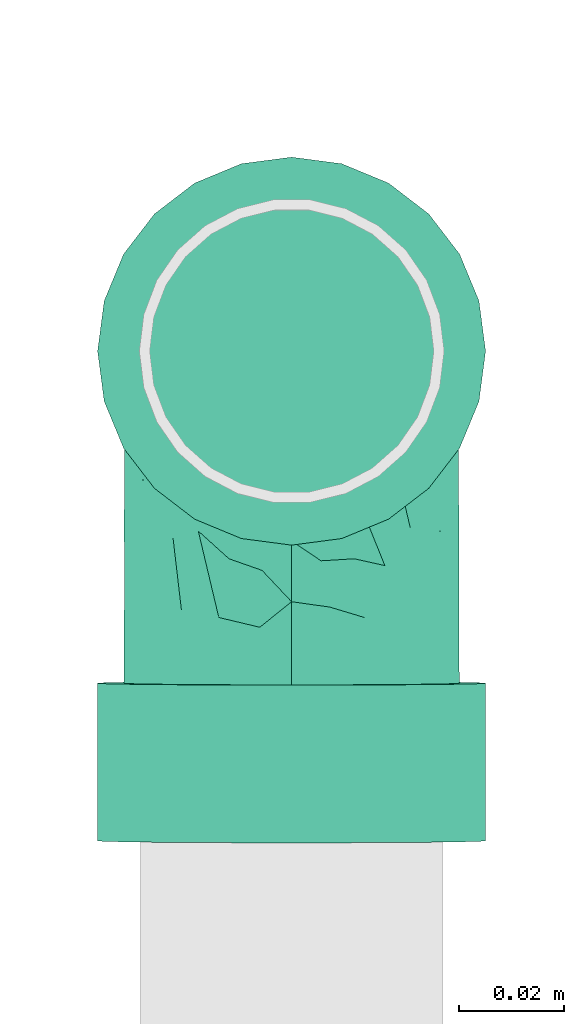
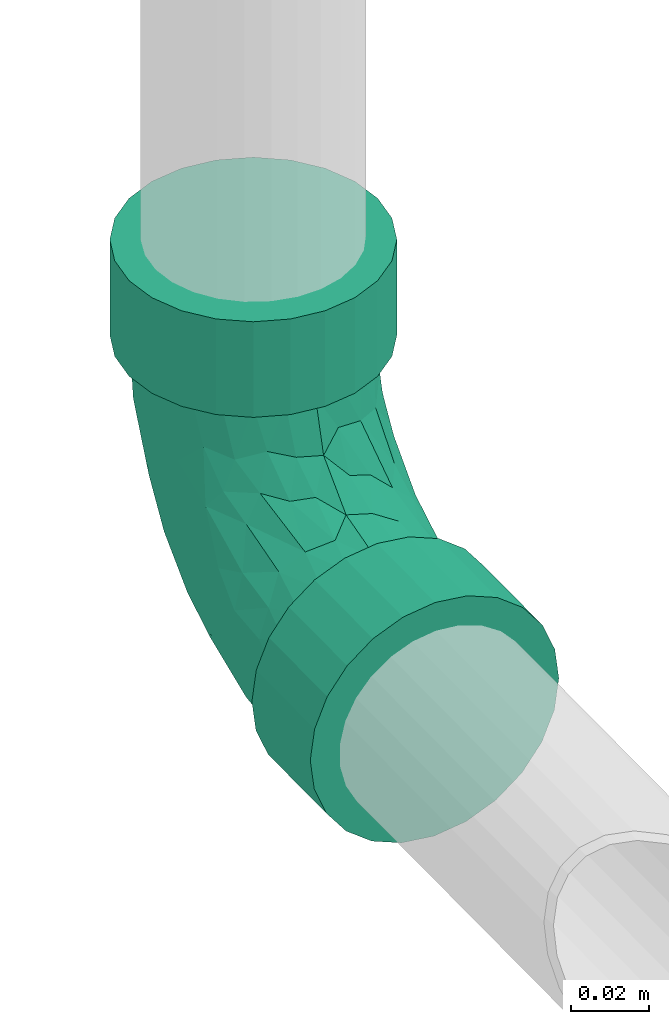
# One storey, part 66 of 78: 1 flow fitting.
"""IFC2X3 building model written with IfcOpenShell, lengths in millimetres."""

import ifcopenshell
import ifcopenshell.guid

model = None  # the IFC model being written
_history = None  # IfcOwnerHistory: only IFC2X3 demands one
_inside = {}  # id of a spatial element -> (the spatial element, [elements in it])
_under = {}  # id of a project, library or spatial element -> (it, [spatial elements below it])
_declared = {}  # id of a project -> (the project, [libraries it declares])
_typed = {}  # id of a type object -> (the type object, [elements of that type])
_made_of = {}  # id of a material, layer set ... -> (it, [elements and type objects made of it])


def new_model(schema):
    """Start an empty IFC model of exactly this schema.

    Asked for "IFC4X3", IfcOpenShell would pick the latest addendum, in which some entities
    have other attributes; the version numbers below select the first issue.
    IFC2X3 requires an IfcOwnerHistory on every rooted entity: one is made here for all.
    """
    global model, _history
    if schema == "IFC4X3":
        model = ifcopenshell.file(schema_version=(4, 3, 0, 0))
    else:
        model = ifcopenshell.file(schema=schema)
    _inside.clear()
    _under.clear()
    _declared.clear()
    _typed.clear()
    _made_of.clear()
    _history = None
    if model.schema == "IFC2X3":
        org = make("IfcOrganization", Name="unknown")
        user = make(
            "IfcPersonAndOrganization",
            ThePerson=make("IfcPerson", FamilyName="unknown"),
            TheOrganization=org,
        )
        app = make(
            "IfcApplication",
            ApplicationDeveloper=org,
            Version="unknown",
            ApplicationFullName="unknown",
            ApplicationIdentifier="unknown",
        )
        _history = make(
            "IfcOwnerHistory",
            OwningUser=user,
            OwningApplication=app,
            ChangeAction="ADDED",
            CreationDate=0,
        )
    return model


def make(cls, **values):
    """One entity of the class cls with the attributes given. An attribute that is None is left unset."""
    return model.create_entity(
        cls, **{name: value for name, value in values.items() if value is not None}
    )


def entity(cls, *values):
    """Any entity or typed value of the class cls, its attributes in the order of the schema. None: left unset."""
    e = model.create_entity(cls)
    for i, value in enumerate(values):
        if value is not None:
            e[i] = value
    return e


def rooted(cls, **values):
    """An entity with a GlobalId (a new one), such as an element, a storey or a relation."""
    return make(cls, GlobalId=ifcopenshell.guid.new(), OwnerHistory=_history, **values)


def si_unit(unit_type, name, prefix=None):
    """IfcSIUnit, for example si_unit("LENGTHUNIT", "METRE", prefix="MILLI")."""
    return make("IfcSIUnit", UnitType=unit_type, Prefix=prefix, Name=name)


def converted_unit(unit_type, name, factor, base, dimensions=None, offset=None):
    """IfcConversionBasedUnit, such as the inch: factor (a typed value) times the base unit."""
    return make(
        "IfcConversionBasedUnit"
        if offset is None
        else "IfcConversionBasedUnitWithOffset",
        ConversionOffset=offset,
        Dimensions=None
        if dimensions is None
        else entity("IfcDimensionalExponents", *dimensions),
        UnitType=unit_type,
        Name=name,
        ConversionFactor=make(
            "IfcMeasureWithUnit", ValueComponent=factor, UnitComponent=base
        ),
    )


def derived_unit(unit_type, elements):
    """IfcDerivedUnit: a product of units, each with its exponent."""
    return make(
        "IfcDerivedUnit",
        Elements=[
            make("IfcDerivedUnitElement", Unit=unit, Exponent=power)
            for unit, power in elements
        ],
        UnitType=unit_type,
    )


def assignment(units):
    """IfcUnitAssignment: the units of a project."""
    return None if units is None else make("IfcUnitAssignment", Units=units)


def point(xyz):
    """IfcCartesianPoint."""
    return None if xyz is None else make("IfcCartesianPoint", Coordinates=xyz)


def direction(xyz):
    """IfcDirection."""
    return None if xyz is None else make("IfcDirection", DirectionRatios=xyz)


def frame(location, z_axis=None, x_axis=None):
    """IfcAxis2Placement3D, a coordinate frame: its origin and axes. An axis left out is left unset."""
    return make(
        "IfcAxis2Placement3D",
        Location=point(location),
        Axis=direction(z_axis),
        RefDirection=direction(x_axis),
    )


def origin_with_axes():
    """The frame at (0, 0, 0) with the z axis (0, 0, 1) and the x axis (1, 0, 0) written out."""
    return frame((0.0, 0.0, 0.0), z_axis=(0.0, 0.0, 1.0), x_axis=(1.0, 0.0, 0.0))


def place(relative_to, where):
    """IfcLocalPlacement: puts the frame where relative to a parent placement (None: the world)."""
    return make(
        "IfcLocalPlacement", PlacementRelTo=relative_to, RelativePlacement=where
    )


def context(
    kind, dimensions, precision=None, world=None, true_north=None, identifier=None
):
    """IfcGeometricRepresentationContext, for example the 3D "Model" context."""
    return make(
        "IfcGeometricRepresentationContext",
        ContextIdentifier=identifier,
        ContextType=kind,
        CoordinateSpaceDimension=dimensions,
        Precision=precision,
        WorldCoordinateSystem=world,
        TrueNorth=true_north,
    )


def subcontext(parent, identifier, kind, view, scale=None):
    """IfcGeometricRepresentationSubContext, for example "Body" below "Model"."""
    return make(
        "IfcGeometricRepresentationSubContext",
        ContextIdentifier=identifier,
        ContextType=kind,
        ParentContext=parent,
        TargetScale=scale,
        TargetView=view,
    )


def project(units=None, contexts=None):
    """IfcProject with its units and contexts."""
    return rooted(
        "IfcProject",
        Name="project",
        RepresentationContexts=contexts,
        UnitsInContext=assignment(units),
    )


def spatial(cls, under=None, at=None, **own):
    """A site, building, storey or space (cls), placed at a placement, below another one or the project."""
    s = rooted(cls, ObjectPlacement=at, **own)
    if under is not None:
        _under.setdefault(under.id(), (under, []))[1].append(s)
    return s


def faces_of(points, faces, orient=None, outer=None):
    """IfcFace entities. A face is a list of loops; a loop is a list of indices into points, from 0.

    orient and outer hold one flag for each loop. By default every Orientation is true, the
    first loop of a face is its IfcFaceOuterBound and the others are IfcFaceBound.
    """
    made = []
    for i, loops in enumerate(faces):
        bounds = []
        for j, loop in enumerate(loops):
            is_outer = j == 0 if outer is None else outer[i][j]
            bounds.append(
                make(
                    "IfcFaceOuterBound" if is_outer else "IfcFaceBound",
                    Bound=make("IfcPolyLoop", Polygon=[points[k] for k in loop]),
                    Orientation=True if orient is None else orient[i][j],
                )
            )
        made.append(make("IfcFace", Bounds=bounds))
    return made


def open_shell(faces, orient=None, outer=None):
    """The faces of one IfcOpenShell. surface_model builds it on its shared points."""
    return ("IfcOpenShell", faces, orient, outer)


def surface_model(cls, points, shells):
    """IfcFaceBasedSurfaceModel or IfcShellBasedSurfaceModel (cls): surfaces that need not close."""
    shared = [point(p) for p in points]
    made = [make(c, CfsFaces=faces_of(shared, fs, o, b)) for c, fs, o, b in shells]
    if cls == "IfcFaceBasedSurfaceModel":
        return make(cls, FbsmFaces=made)
    return make(cls, SbsmBoundary=made)


def shape(context_of_items, identifier, shape_type, items):
    """IfcShapeRepresentation: the items that make up one representation, for example the "Body"."""
    return make(
        "IfcShapeRepresentation",
        ContextOfItems=context_of_items,
        RepresentationIdentifier=identifier,
        RepresentationType=shape_type,
        Items=items,
    )


def source(mapping_origin, context_of_items, identifier, shape_type, items):
    """IfcRepresentationMap: a shape defined once, which mapped items show again and again."""
    return make(
        "IfcRepresentationMap",
        MappingOrigin=mapping_origin,
        MappedRepresentation=shape(context_of_items, identifier, shape_type, items),
    )


def transform(
    local_origin,
    x_axis=None,
    y_axis=None,
    z_axis=None,
    scale=None,
    scale2=None,
    scale3=None,
    uniform=True,
):
    """IfcCartesianTransformationOperator3D, or its non-uniform kind. x_axis, y_axis, z_axis: its Axis1, 2, 3."""
    if uniform:
        return make(
            "IfcCartesianTransformationOperator3D",
            Axis1=direction(x_axis),
            Axis2=direction(y_axis),
            LocalOrigin=point(local_origin),
            Scale=scale,
            Axis3=direction(z_axis),
        )
    return make(
        "IfcCartesianTransformationOperator3DnonUniform",
        Axis1=direction(x_axis),
        Axis2=direction(y_axis),
        LocalOrigin=point(local_origin),
        Scale=scale,
        Axis3=direction(z_axis),
        Scale2=scale2,
        Scale3=scale3,
    )


def mapped(mapping_source, mapping_target):
    """IfcMappedItem: shows the shape of a source again, moved by a transform."""
    return make(
        "IfcMappedItem", MappingSource=mapping_source, MappingTarget=mapping_target
    )


def made_of(thing, what):
    """Note that an element or type object is made of a material, layer set ...; save() writes the relation."""
    if what is not None:
        _made_of.setdefault(what.id(), (what, []))[1].append(thing)
    return thing


def type_object(cls, material=None, **own):
    """A type object (cls), such as IfcWallType, which elements share."""
    return made_of(rooted(cls, **own), material)


def element(
    cls,
    number,
    at=None,
    inside=None,
    cuts=None,
    type_object=None,
    material=None,
    context=None,
    identifier="Body",
    shape_type=None,
    held_by="IfcProductDefinitionShape",
    body=None,
    shapes=None,
    **own,
):
    """One element of the class cls, such as IfcWall. Its Tag is "e" and its number.

    at: its placement. inside: the storey or other place that contains it. cuts: it is an
    opening in that element (IfcRelVoidsElement). A single representation is given by context,
    identifier, shape_type and body (its items); several are given by shapes. held_by: the class
    of the entity that holds the representations. save() writes the other relations.
    """
    e = rooted(cls, Tag="e%d" % number, ObjectPlacement=at, **own)
    if body is not None:
        shapes = [shape(context, identifier, shape_type, body)]
    if shapes is not None:
        e.Representation = make(held_by, Representations=shapes)
    if inside is not None:
        _inside.setdefault(inside.id(), (inside, []))[1].append(e)
    if cuts is not None:
        rooted(
            "IfcRelVoidsElement", RelatingBuildingElement=cuts, RelatedOpeningElement=e
        )
    if type_object is not None:
        _typed.setdefault(type_object.id(), (type_object, []))[1].append(e)
    return made_of(e, material)


def aggregate(whole, parts):
    """IfcRelAggregates: a whole, such as a stair, and the parts it consists of."""
    return rooted("IfcRelAggregates", RelatingObject=whole, RelatedObjects=parts)


def save(model, path):
    """Write the relations noted so far, then the file.

    IfcRelAggregates (storeys below a building ...), IfcRelContainedInSpatialStructure (elements
    in a storey), IfcRelDefinesByType, IfcRelAssociatesMaterial and IfcRelDeclares: one each for
    every whole, place, type object, material and project.
    """
    for whole, parts in _under.values():
        aggregate(whole, parts)
    for where, things in _inside.values():
        rooted(
            "IfcRelContainedInSpatialStructure",
            RelatedElements=things,
            RelatingStructure=where,
        )
    for kind, things in _typed.values():
        rooted("IfcRelDefinesByType", RelatedObjects=things, RelatingType=kind)
    for what, things in _made_of.values():
        rooted("IfcRelAssociatesMaterial", RelatedObjects=things, RelatingMaterial=what)
    for by, libraries in _declared.values():
        rooted("IfcRelDeclares", RelatingContext=by, RelatedDefinitions=libraries)
    model.write(path)


model = new_model("IFC2X3")

# Units and contexts
model_context = context("Model", 3, precision=0.01, world=frame((0.0, 4.29681676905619e-09, 0.0)), true_north=direction((4.01073788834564e-13, 1.0)))
plan_context = context("Plan", 3, precision=0.01, world=frame((0.0, 4.29681676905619e-09, 0.0)), true_north=direction((4.01073788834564e-13, 1.0)))
body_context = subcontext(model_context, "Body", "Model", "MODEL_VIEW")
ifc_project = project(units=[converted_unit("PLANEANGLEUNIT", "DEGREE", entity("IfcPositiveLengthMeasure", 0.0174532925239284), si_unit("PLANEANGLEUNIT", "RADIAN"), dimensions=[0, 0, 0, 0, 0, 0, 0]), si_unit("AREAUNIT", "SQUARE_METRE"), si_unit("LENGTHUNIT", "METRE", prefix="MILLI"), si_unit("MASSUNIT", "GRAM", prefix="KILO"), si_unit("POWERUNIT", "WATT"), si_unit("PRESSUREUNIT", "PASCAL"), si_unit("FORCEUNIT", "NEWTON", prefix="KILO"), si_unit("ELECTRICVOLTAGEUNIT", "VOLT"), si_unit("ELECTRICCURRENTUNIT", "AMPERE"), si_unit("THERMODYNAMICTEMPERATUREUNIT", "DEGREE_CELSIUS"), si_unit("TIMEUNIT", "SECOND"), si_unit("VOLUMEUNIT", "CUBIC_METRE"), derived_unit("LINEARVELOCITYUNIT", [(si_unit("LENGTHUNIT", "METRE"), 1), (si_unit("TIMEUNIT", "SECOND"), -1)]), derived_unit("VOLUMETRICFLOWRATEUNIT", [(si_unit("VOLUMEUNIT", "CUBIC_METRE"), 1), (si_unit("TIMEUNIT", "SECOND"), -1)]), derived_unit("THERMALTRANSMITTANCEUNIT", [(si_unit("POWERUNIT", "WATT"), 1), (si_unit("THERMODYNAMICTEMPERATUREUNIT", "KELVIN"), -1), (si_unit("AREAUNIT", "SQUARE_METRE"), -1)]), derived_unit("SOUNDPRESSUREUNIT", [(si_unit("PRESSUREUNIT", "PASCAL"), 1)])], contexts=[model_context, plan_context])

# Site, building, storey
site_placement = place(None, frame((0.0, -4.29681676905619e-09, 0.0), z_axis=(0.0, 0.0, 1.0), x_axis=(1.0, 0.0, 0.0)))
site = spatial("IfcSite", under=ifc_project, at=site_placement, Name="ENGM", CompositionType="ELEMENT")
building_placement = place(site_placement, frame((0.0, 4.29681676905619e-09, 0.0), z_axis=(0.0, 0.0, 1.0), x_axis=(1.0, 0.0, 0.0)))
building = spatial("IfcBuilding", under=site, at=building_placement, Name="TH", CompositionType="ELEMENT")
storey_placement = place(building_placement, frame((0.0, 0.0, 205200.0), z_axis=(0.0, 0.0, 1.0), x_axis=(1.0, 0.0, 0.0)))
storey = spatial("IfcBuildingStorey", under=building, at=storey_placement, Name="Nivå D + 1,2 m", CompositionType="ELEMENT", Elevation=205200.0)

# Flow fitting
pipe_fitting_type = type_object("IfcPipeFittingType", Name="magi_sewer_bend_001 2", PredefinedType="BEND")
shared_shape = source(origin_with_axes(), body_context, "Body", "SurfaceModel", [
    surface_model("IfcShellBasedSurfaceModel", [(-93.16519, -9.55042, -35.64266), (-93.16519, -18.45, -31.95634), (-93.16519, -26.09224, -26.09224), (-93.16519, 35.64266, -9.55042), (-93.16519, -35.64266, -9.55042), (-93.16519, 36.9, 0.0), (-93.16519, -31.95634, -18.45), (-93.16519, 9.55042, -35.64266), (-93.16519, 0.0, -36.9), (-93.16519, 18.45, -31.95634), (-93.16519, 26.09224, -26.09224), (-93.16519, 31.95634, -18.45), (-93.16519, -35.64266, 9.55042), (-93.16519, -36.9, 0.0), (-93.16519, -31.95634, 18.45), (-93.16519, -26.09224, 26.09224), (-93.16519, -9.55042, 35.64266), (-93.16519, 26.09224, 26.09224), (-93.16519, -18.45, 31.95634), (-93.16519, 0.0, 36.9), (-93.16519, 9.55042, 35.64266), (-93.16519, 35.64266, 9.55042), (-93.16519, 31.95634, 18.45), (-93.16519, 18.45, 31.95634), (-63.16519, -9.55042, 35.64266), (-63.16519, 9.55042, 35.64266), (-63.16519, 0.0, 36.9), (-63.16519, -26.09224, 26.09224), (-63.16519, -18.45, 31.95634), (-63.16519, -31.95634, 18.45), (-63.16519, -35.64266, 9.55042), (-63.16519, -26.09224, -26.09224), (-63.16519, 36.9, 0.0), (-63.16519, 26.09224, 26.09224), (-63.16519, 18.45, 31.95634), (-63.16519, 35.64266, 9.55042), (-63.16519, 31.95634, 18.45), (-63.16519, -35.64266, -9.55042), (-63.16519, -31.95634, -18.45), (-63.16519, -18.45, -31.95634), (-63.16519, -9.55042, -35.64266), (-63.16519, 18.45, -31.95634), (-63.16519, 9.55042, -35.64266), (-63.16519, 35.64266, -9.55042), (-63.16519, 26.09224, -26.09224), (-63.16519, 31.95634, -18.45), (-63.16519, 0.0, -36.9), (-63.16519, -36.9, 0.0), (-34.70928, 93.51694, 9.55042), (-31.02313, 93.48008, 18.45), (-25.15933, 93.42144, 26.09224), (-34.70928, 93.51694, -9.55042), (-8.61834, 93.25604, 35.64266), (0.93161, 93.16053, 36.9), (-17.51747, 93.34502, 31.95634), (10.48155, 93.06503, -35.64266), (-31.02313, 93.48008, -18.45), (-35.96655, 93.52951, 0.0), (-17.51747, 93.34502, -31.95634), (-25.15933, 93.42144, -26.09224), (-8.61834, 93.25604, -35.64266), (27.02254, 92.89963, 26.09224), (10.48155, 93.06503, 35.64266), (19.38068, 92.97604, 31.95634), (36.57249, 92.80412, 9.55042), (32.88634, 92.84098, 18.45), (37.82976, 92.79155, 0.0), (27.02254, 92.89963, -26.09224), (19.38068, 92.97604, -31.95634), (0.93161, 93.16053, -36.9), (32.88634, 92.84098, -18.45), (36.57249, 92.80412, -9.55042), (36.2725, 62.80562, 9.55042), (36.2725, 62.80562, -9.55042), (37.52977, 62.79305, 0.0), (26.72256, 62.90112, 26.09224), (32.58636, 62.84249, 18.45), (19.0807, 62.97754, 31.95634), (10.18157, 63.06653, 35.64266), (10.18157, 63.06653, -35.64266), (32.58636, 62.84249, -18.45), (26.72256, 62.90112, -26.09224), (19.0807, 62.97754, -31.95634), (-8.91832, 63.25753, -35.64266), (0.63162, 63.16203, -36.9), (-25.45932, 63.42294, 26.09224), (0.63162, 63.16203, 36.9), (-8.91832, 63.25753, 35.64266), (-17.81746, 63.34652, 31.95634), (-31.32312, 63.48158, 18.45), (-35.00926, 63.51844, 9.55042), (-17.81746, 63.34652, -31.95634), (-35.00926, 63.51844, -9.55042), (-31.32312, 63.48158, -18.45), (-25.45932, 63.42294, -26.09224), (-36.26653, 63.53101, 0.0), (-63.16519, 0.0, -31.9), (-63.16519, -8.25633, -30.81303), (-63.16519, 8.25633, -30.81303), (-63.16519, 15.95, -27.62621), (-63.16519, -27.62621, -15.95), (-63.16519, 27.62621, -15.95), (-63.16519, 22.55671, -22.55671), (-63.16519, -30.81303, 8.25633), (-63.16519, -22.55671, -22.55671), (-63.16519, -15.95, -27.62621), (-63.16519, -31.9, 0.0), (-63.16519, -30.81303, -8.25633), (-63.16519, 30.81303, -8.25633), (-63.16519, 31.9, 0.0), (-63.16519, -27.62621, 15.95), (-63.16519, 30.81303, 8.25633), (-63.16519, 27.62621, 15.95), (-63.16519, 22.55671, 22.55671), (-63.16519, 8.25633, 30.81303), (-63.16519, 15.95, 27.62621), (-63.16519, -8.25633, 30.81303), (-63.16519, -22.55671, 22.55671), (-63.16519, -15.95, 27.62621), (-63.16519, 0.0, 31.9), (-7.62429, 63.24459, -30.81303), (28.25645, 62.88578, -15.95), (0.63162, 63.16203, -31.9), (-15.31758, 63.32153, -27.62621), (-26.99321, 63.43828, -15.95), (-21.92396, 63.38759, -22.55671), (31.44311, 62.85392, 8.25633), (16.58082, 63.00254, -27.62621), (23.1872, 62.93647, -22.55671), (8.88753, 63.07947, -30.81303), (32.53003, 62.84305, 0.0), (31.44311, 62.85392, -8.25633), (-30.17987, 63.47014, -8.25633), (-31.26678, 63.48102, 0.0), (-30.17987, 63.47014, 8.25633), (-26.99321, 63.43828, 15.95), (-21.92396, 63.38759, 22.55671), (-15.31758, 63.32153, 27.62621), (-7.62429, 63.24459, 30.81303), (28.25645, 62.88578, 15.95), (16.58082, 63.00254, 27.62621), (23.1872, 62.93647, 22.55671), (8.88753, 63.07947, 30.81303), (0.63162, 63.16203, 31.9), (-42.47576, -27.97575, 10.0398), (-46.1635, -24.77655, 17.91632), (-33.77435, -27.27507, 0.0), (-47.47297, -29.43068, 0.0), (-7.8056, -11.26446, 12.211), (-2.01475, -8.9047, 6.63739), (2.21418, -2.23643, 13.01062), (-47.13515, 4.37562, 31.82045), (-42.74372, 13.76914, 30.36966), (-54.47966, 11.90932, 29.87392), (11.45089, 8.05214, 12.51688), (19.67179, 25.01082, 15.87577), (7.65841, 11.04042, 20.41127), (-46.02716, -12.02572, 28.69377), (-24.14397, -7.49262, 26.68906), (-31.31957, -0.33497, 30.93015), (-53.5751, -19.68535, 24.66132), (-28.12946, -24.53183, 6.52094), (-20.49931, -20.56119, 0.0), (-5.40616, 5.46049, 26.13235), (-11.11645, -7.54763, 20.41127), (-30.65767, 50.6638, 13.84558), (-11.36395, 54.59603, 29.87392), (-3.90407, 47.17655, 31.82045), (-8.00119, 20.94177, 31.31983), (-15.41809, 5.82326, 29.82881), (-2.83023, 16.97298, 29.31706), (-47.81307, 27.01532, 21.08257), (-49.51983, 20.0167, 26.37763), (-48.20739, -4.22759, 31.35852), (-10.76783, 31.08271, 31.83553), (-23.24307, 23.47666, 31.10958), (-18.70185, 13.79196, 31.74742), (-48.33894, 34.61205, 7.2623), (-50.35471, 31.16275, 13.84558), (20.22009, 53.37558, 24.66132), (-39.26349, 27.3301, 24.69309), (-40.45449, 34.22064, 17.74686), (-26.15312, 49.33318, 20.94456), (-33.24627, 35.39047, 22.57165), (-34.12224, 24.35306, 28.25125), (-32.26714, 10.75702, 31.80853), (12.48537, 45.90461, 28.69377), (18.60555, 40.05623, 23.70365), (25.23692, 45.91344, 17.91632), (28.39909, 42.1939, 10.0398), (-7.22427, -13.8473, 0.0), (-15.12291, -17.71654, 8.22903), (4.70943, 48.1627, 31.35852), (20.76514, 20.29268, 0.0), (24.81188, 27.88275, 6.52094), (17.86688, 14.94499, 8.22903), (29.90391, 47.1763, 0.0), (-39.09871, 39.49165, 11.90967), (-25.20628, -19.42071, 15.87577), (-40.24027, -18.20408, 23.70365), (-39.46843, 41.70847, 5.60964), (-47.30736, 36.12078, 0.0), (14.99786, 24.99724, 21.61067), (7.73367, 24.06784, 26.68906), (-35.64592, 47.66619, 0.0), (-32.70746, 52.51933, 6.05348), (-13.34104, 42.87927, 30.36966), (-25.01084, -13.93263, 22.31928), (-22.70502, 40.88344, 26.80111), (-20.70555, 33.51385, 29.69828), (-18.96128, 53.08198, 26.11822), (0.64813, 31.31465, 30.93015), (-32.76253, 18.81218, 30.45182), (-1.97541, 1.99526, 21.92484), (9.03587, 2.13014, 6.86079), (27.61143, 33.49992, 0.0), (13.91885, 7.08544, 0.0), (3.34729, -3.38093, 0.0), (-49.0692, 26.64512, -20.94456), (-25.14596, -14.74715, -21.61067), (-24.14397, -7.49262, -26.68906), (-11.11645, -7.54763, -20.41127), (-47.13515, 4.37562, -31.82045), (12.48537, 45.90461, -28.69377), (7.73367, 24.06784, -26.68906), (0.64813, 31.31465, -30.93015), (-54.47966, 11.90932, -29.87392), (-26.53586, 48.08082, -21.08257), (-52.18965, 33.231, -6.05348), (7.65841, 11.04042, -20.41127), (14.18203, 24.87028, -22.31928), (-50.35471, 31.16275, -13.84558), (24.81188, 27.88275, -6.52094), (19.67179, 25.01082, -15.87577), (28.39909, 42.1939, -10.0398), (-42.74372, 13.76914, -30.36966), (-40.65435, 23.1127, -26.80111), (-33.30513, 21.03964, -29.69828), (-5.40616, 5.46049, -26.13235), (-20.86072, 8.2102, -31.31983), (-5.6688, 15.47554, -29.82881), (-16.94383, 2.99981, -29.31706), (-52.88972, 19.49112, -26.11822), (-42.47576, -27.97575, -10.0398), (-35.05626, 33.59849, -22.57165), (-46.16349, -24.77655, -17.91632), (-28.12946, -24.53183, -6.52094), (-25.20628, -19.42071, -15.87577), (-15.12291, -17.71655, -8.22903), (-46.02716, -12.02572, -28.69377), (-48.20739, -4.22759, -31.35852), (-13.34104, 42.87926, -30.36966), (-24.01064, 34.36405, -28.25125), (-19.52052, 49.71751, -26.37763), (-34.12695, 48.68263, -7.2623), (-41.31172, 39.88352, -5.60964), (-30.65767, 50.6638, -13.84558), (-33.8144, 40.79465, -17.74686), (-39.09871, 39.49165, -11.90967), (-3.90407, 47.17655, -31.82045), (-26.93611, 39.53481, -24.69309), (-11.36395, 54.59603, -29.87392), (-2.01475, -8.9047, -6.63739), (25.23692, 45.91344, -17.91632), (4.70943, 48.1627, -31.35852), (-53.5751, -19.68535, -24.66132), (-30.97349, 11.0781, -31.83553), (-23.24307, 23.47666, -31.10958), (-13.60426, 18.83882, -31.74742), (20.22009, 53.37558, -24.66132), (-40.24027, -18.20408, -23.70365), (-10.43383, 32.37309, -31.80853), (17.86688, 14.94499, -8.22903), (18.60555, 40.05623, -23.70365), (-31.31957, -0.33497, -30.93015), (-7.8056, -11.26446, -12.211), (-18.48363, 32.949, -30.45182), (-0.06967, 0.07037, -18.65029), (2.21418, -2.23643, -13.01062), (11.45089, 8.05214, -12.51688), (9.03587, 2.13014, -6.86079)], [open_shell([[[0, 1, 2]], [[3, 0, 2]], [[2, 4, 5]], [[4, 2, 6]], [[5, 3, 2]], [[0, 7, 8]], [[0, 9, 7]], [[10, 3, 11]], [[3, 10, 9]], [[0, 3, 9]], [[12, 4, 13]], [[12, 14, 15]], [[5, 12, 15]], [[15, 16, 17]], [[16, 15, 18]], [[19, 20, 16]], [[21, 17, 22]], [[17, 21, 5]], [[17, 20, 23]], [[17, 5, 15]], [[16, 20, 17]], [[12, 5, 4]], [[24, 25, 26]], [[27, 24, 28]], [[27, 29, 30]], [[25, 24, 27]], [[31, 32, 27]], [[25, 33, 34]], [[33, 25, 32]], [[33, 35, 36]], [[35, 33, 32]], [[25, 27, 32]], [[27, 30, 31]], [[30, 37, 31]], [[31, 37, 38]], [[31, 39, 40]], [[31, 41, 32]], [[42, 31, 40]], [[43, 44, 45]], [[44, 43, 41]], [[31, 42, 41]], [[43, 32, 41]], [[46, 42, 40]], [[47, 37, 30]], [[43, 3, 32]], [[45, 11, 43]], [[9, 44, 41]], [[45, 44, 10]], [[7, 41, 42]], [[43, 11, 3]], [[3, 5, 32]], [[7, 9, 41]], [[10, 44, 9]], [[10, 11, 45]], [[8, 7, 42]], [[42, 46, 8]], [[40, 0, 46]], [[39, 1, 40]], [[37, 47, 4]], [[31, 2, 39]], [[39, 2, 1]], [[1, 0, 40]], [[6, 38, 4]], [[6, 2, 31]], [[4, 38, 37]], [[47, 13, 4]], [[6, 31, 38]], [[46, 0, 8]], [[30, 12, 47]], [[29, 14, 30]], [[18, 27, 28]], [[29, 27, 15]], [[16, 28, 24]], [[30, 14, 12]], [[12, 13, 47]], [[16, 18, 28]], [[15, 27, 18]], [[15, 14, 29]], [[19, 16, 24]], [[24, 26, 19]], [[23, 34, 33]], [[22, 36, 35]], [[33, 36, 17]], [[21, 35, 32]], [[20, 25, 23]], [[25, 20, 26]], [[25, 34, 23]], [[33, 17, 23]], [[36, 22, 17]], [[21, 22, 35]], [[32, 5, 21]], [[26, 20, 19]], [[48, 49, 50]], [[51, 48, 50]], [[52, 53, 50]], [[52, 50, 54]], [[55, 51, 50]], [[51, 55, 56]], [[51, 57, 48]], [[56, 58, 59]], [[56, 55, 58]], [[55, 60, 58]], [[50, 53, 61]], [[62, 63, 61]], [[61, 55, 50]], [[61, 64, 55]], [[64, 61, 65]], [[66, 55, 64]], [[55, 67, 68]], [[69, 60, 55]], [[55, 70, 67]], [[70, 55, 71]], [[66, 71, 55]], [[61, 53, 62]], [[72, 73, 74]], [[75, 72, 76]], [[75, 77, 78]], [[73, 72, 75]], [[79, 75, 78]], [[80, 79, 81]], [[80, 73, 75]], [[81, 79, 82]], [[75, 79, 80]], [[79, 83, 84]], [[79, 78, 83]], [[85, 86, 87]], [[85, 87, 88]], [[85, 89, 90]], [[86, 85, 91]], [[92, 85, 90]], [[91, 93, 94]], [[91, 83, 86]], [[93, 91, 85]], [[85, 92, 93]], [[90, 95, 92]], [[86, 83, 78]], [[83, 60, 84]], [[91, 58, 83]], [[56, 94, 93]], [[91, 94, 59]], [[51, 93, 92]], [[83, 58, 60]], [[60, 69, 84]], [[51, 56, 93]], [[59, 94, 56]], [[59, 58, 91]], [[57, 51, 92]], [[92, 95, 57]], [[90, 48, 95]], [[89, 49, 90]], [[87, 86, 52]], [[85, 50, 89]], [[89, 50, 49]], [[49, 48, 90]], [[54, 88, 52]], [[54, 50, 85]], [[52, 88, 87]], [[86, 53, 52]], [[54, 85, 88]], [[95, 48, 57]], [[78, 62, 86]], [[77, 63, 78]], [[65, 75, 76]], [[77, 75, 61]], [[64, 76, 72]], [[78, 63, 62]], [[62, 53, 86]], [[64, 65, 76]], [[61, 75, 65]], [[61, 63, 77]], [[66, 64, 72]], [[72, 74, 66]], [[70, 80, 81]], [[68, 82, 79]], [[81, 82, 67]], [[55, 79, 84]], [[71, 73, 70]], [[73, 71, 74]], [[73, 80, 70]], [[81, 67, 70]], [[82, 68, 67]], [[55, 68, 79]], [[84, 69, 55]], [[74, 71, 66]], [[96, 97, 98]], [[98, 97, 99]], [[100, 101, 99]], [[102, 99, 101]], [[103, 101, 100]], [[104, 100, 105]], [[97, 105, 100]], [[106, 103, 107]], [[99, 97, 100]], [[103, 100, 107]], [[108, 101, 103]], [[109, 110, 111]], [[112, 111, 113]], [[114, 115, 113]], [[111, 114, 113]], [[114, 111, 116]], [[117, 118, 110]], [[109, 103, 110]], [[118, 116, 110]], [[116, 111, 110]], [[114, 116, 119]], [[108, 103, 109]], [[120, 121, 122]], [[123, 121, 120]], [[123, 124, 121]], [[124, 123, 125]], [[121, 124, 126]], [[127, 121, 128]], [[121, 127, 129]], [[121, 130, 131]], [[121, 129, 122]], [[121, 126, 130]], [[126, 124, 132]], [[133, 134, 135]], [[133, 135, 136]], [[136, 137, 138]], [[133, 136, 139]], [[139, 136, 138]], [[139, 140, 141]], [[139, 126, 133]], [[139, 142, 140]], [[142, 139, 143]], [[138, 143, 139]], [[133, 126, 132]], [[144, 145, 110]], [[146, 144, 147]], [[148, 149, 150]], [[103, 144, 110]], [[103, 147, 144]], [[151, 152, 153]], [[110, 145, 117]], [[154, 155, 156]], [[157, 158, 159]], [[160, 118, 117]], [[157, 118, 160]], [[161, 146, 162]], [[163, 158, 164]], [[165, 135, 134]], [[138, 166, 167]], [[114, 153, 115]], [[168, 169, 170]], [[171, 113, 172]], [[116, 173, 119]], [[174, 175, 176]], [[177, 111, 178]], [[178, 111, 112]], [[179, 141, 140]], [[109, 111, 177]], [[180, 181, 171]], [[182, 165, 183]], [[184, 180, 172]], [[152, 151, 185]], [[186, 187, 179]], [[113, 171, 112]], [[188, 155, 189]], [[182, 135, 165]], [[190, 191, 162]], [[143, 192, 142]], [[162, 191, 161]], [[143, 138, 167]], [[113, 115, 172]], [[189, 126, 139]], [[139, 141, 188]], [[188, 189, 139]], [[193, 194, 195]], [[189, 196, 126]], [[178, 181, 197]], [[145, 198, 199]], [[114, 119, 151]], [[200, 201, 177]], [[202, 203, 156]], [[204, 205, 133]], [[206, 174, 167]], [[165, 134, 205]], [[186, 140, 142]], [[182, 136, 135]], [[164, 158, 207]], [[208, 209, 206]], [[118, 157, 116]], [[210, 137, 136]], [[166, 138, 137]], [[152, 184, 172]], [[187, 186, 203]], [[195, 194, 155]], [[208, 182, 183]], [[182, 208, 210]], [[206, 209, 174]], [[192, 167, 211]], [[173, 151, 119]], [[159, 176, 185]], [[158, 157, 199]], [[173, 157, 159]], [[207, 198, 164]], [[158, 163, 169]], [[192, 186, 142]], [[211, 170, 203]], [[211, 203, 186]], [[203, 163, 156]], [[155, 202, 156]], [[144, 161, 198]], [[198, 145, 144]], [[160, 145, 199]], [[179, 188, 141]], [[155, 188, 187]], [[153, 172, 115]], [[152, 212, 184]], [[208, 183, 184]], [[206, 166, 210]], [[171, 178, 112]], [[177, 178, 197]], [[200, 205, 204]], [[197, 181, 165]], [[184, 175, 209]], [[180, 183, 181]], [[175, 212, 185]], [[211, 167, 174]], [[169, 176, 159]], [[174, 176, 168]], [[148, 198, 191]], [[213, 150, 156]], [[213, 156, 163]], [[154, 150, 214]], [[167, 192, 143]], [[186, 192, 211]], [[157, 173, 116]], [[151, 173, 159]], [[103, 106, 147]], [[196, 189, 215]], [[196, 130, 126]], [[149, 191, 190]], [[191, 149, 148]], [[193, 195, 216]], [[189, 194, 215]], [[214, 150, 149]], [[159, 185, 151]], [[175, 185, 176]], [[200, 177, 197]], [[177, 201, 109]], [[205, 197, 165]], [[201, 200, 204]], [[205, 200, 197]], [[133, 205, 134]], [[214, 217, 216]], [[214, 195, 154]], [[214, 149, 217]], [[216, 195, 214]], [[149, 190, 217]], [[155, 154, 195]], [[156, 150, 154]], [[171, 181, 178]], [[165, 181, 183]], [[150, 164, 148]], [[198, 148, 164]], [[182, 210, 136]], [[206, 210, 208]], [[158, 169, 159]], [[170, 169, 163]], [[203, 170, 163]], [[168, 170, 211]], [[174, 168, 211]], [[169, 168, 176]], [[198, 161, 191]], [[146, 161, 144]], [[215, 194, 193]], [[155, 194, 189]], [[210, 166, 137]], [[167, 166, 206]], [[151, 153, 114]], [[172, 153, 152]], [[145, 160, 117]], [[157, 160, 199]], [[186, 179, 140]], [[188, 179, 187]], [[184, 209, 208]], [[174, 209, 175]], [[185, 212, 152]], [[175, 184, 212]], [[172, 180, 171]], [[184, 183, 180]], [[158, 199, 207]], [[198, 207, 199]], [[155, 187, 202]], [[203, 202, 187]], [[163, 164, 213]], [[150, 213, 164]], [[101, 218, 102]], [[219, 220, 221]], [[96, 98, 222]], [[223, 224, 225]], [[98, 99, 226]], [[125, 227, 124]], [[201, 228, 109]], [[229, 224, 230]], [[231, 108, 228]], [[232, 233, 234]], [[235, 236, 237]], [[224, 229, 238]], [[239, 240, 241]], [[242, 99, 102]], [[100, 243, 107]], [[127, 223, 129]], [[243, 147, 107]], [[236, 218, 244]], [[243, 100, 245]], [[218, 101, 231]], [[246, 247, 248]], [[218, 231, 244]], [[249, 105, 97]], [[131, 130, 196]], [[250, 97, 96]], [[247, 243, 245]], [[251, 252, 253]], [[218, 236, 242]], [[254, 255, 204]], [[256, 257, 258]], [[133, 132, 254]], [[120, 122, 259]], [[227, 260, 257]], [[259, 251, 261]], [[190, 248, 262]], [[253, 227, 125]], [[261, 123, 120]], [[234, 263, 121]], [[122, 129, 264]], [[101, 108, 231]], [[265, 104, 105]], [[253, 252, 260]], [[266, 267, 268]], [[269, 223, 127]], [[270, 265, 249]], [[254, 132, 256]], [[251, 259, 271]], [[215, 193, 232]], [[121, 263, 128]], [[269, 127, 128]], [[234, 131, 196]], [[270, 249, 220]], [[234, 196, 215]], [[162, 246, 248]], [[216, 272, 193]], [[121, 131, 234]], [[235, 266, 222]], [[98, 226, 222]], [[263, 233, 273]], [[132, 124, 256]], [[125, 123, 253]], [[100, 104, 245]], [[235, 237, 266]], [[250, 222, 274]], [[264, 259, 122]], [[225, 268, 271]], [[250, 249, 97]], [[274, 241, 220]], [[274, 220, 249]], [[220, 238, 221]], [[224, 223, 273]], [[264, 223, 225]], [[230, 233, 229]], [[224, 238, 240]], [[275, 247, 221]], [[247, 219, 221]], [[265, 245, 104]], [[247, 245, 270]], [[233, 263, 234]], [[269, 263, 273]], [[261, 253, 123]], [[251, 276, 252]], [[236, 244, 252]], [[235, 226, 242]], [[227, 256, 124]], [[254, 256, 258]], [[255, 228, 201]], [[258, 257, 231]], [[252, 267, 237]], [[260, 244, 257]], [[267, 276, 271]], [[274, 222, 266]], [[240, 268, 225]], [[266, 268, 239]], [[277, 238, 229]], [[275, 278, 262]], [[279, 233, 272]], [[277, 278, 275]], [[222, 250, 96]], [[249, 250, 274]], [[223, 264, 129]], [[259, 264, 225]], [[147, 243, 146]], [[147, 106, 107]], [[162, 248, 190]], [[243, 246, 146]], [[248, 275, 262]], [[193, 272, 232]], [[278, 280, 262]], [[272, 280, 279]], [[225, 271, 259]], [[267, 271, 268]], [[255, 254, 258]], [[254, 204, 133]], [[228, 258, 231]], [[204, 255, 201]], [[228, 255, 258]], [[109, 228, 108]], [[278, 279, 280]], [[280, 217, 262]], [[272, 216, 280]], [[277, 279, 278]], [[217, 280, 216]], [[217, 190, 262]], [[233, 279, 229]], [[227, 257, 256]], [[231, 257, 244]], [[247, 275, 248]], [[277, 275, 221]], [[218, 242, 102]], [[235, 242, 236]], [[224, 240, 225]], [[241, 240, 238]], [[220, 241, 238]], [[239, 241, 274]], [[266, 239, 274]], [[240, 239, 268]], [[146, 246, 162]], [[247, 246, 243]], [[233, 232, 272]], [[215, 232, 234]], [[242, 226, 99]], [[222, 226, 235]], [[259, 261, 120]], [[253, 261, 251]], [[249, 265, 105]], [[245, 265, 270]], [[263, 269, 128]], [[223, 269, 273]], [[252, 237, 236]], [[266, 237, 267]], [[271, 276, 251]], [[267, 252, 276]], [[253, 260, 227]], [[252, 244, 260]], [[247, 270, 219]], [[220, 219, 270]], [[224, 273, 230]], [[233, 230, 273]], [[238, 277, 221]], [[279, 277, 229]]])]),
])
flow_fitting_placement = place(storey_placement, frame((905003.37345, 477878.22245, 4309.01071999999), z_axis=(-1.0, 0.0, 0.0), x_axis=(0.0, 3.999999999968e-06, -0.999999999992)))
element("IfcFlowFitting", 1, at=flow_fitting_placement, inside=storey, type_object=pipe_fitting_type, Name="magi_sewer_bend_001 2", context=body_context, shape_type="MappedRepresentation", body=[
    mapped(shared_shape, transform((0.0, 0.0, 0.0), scale=1.0)),
])

save(model, "model.ifc")
